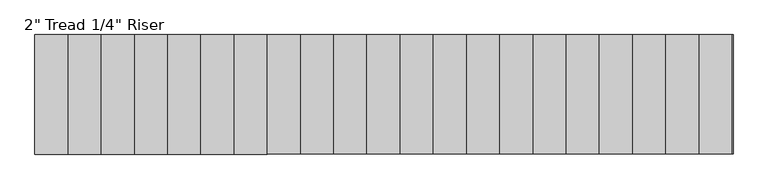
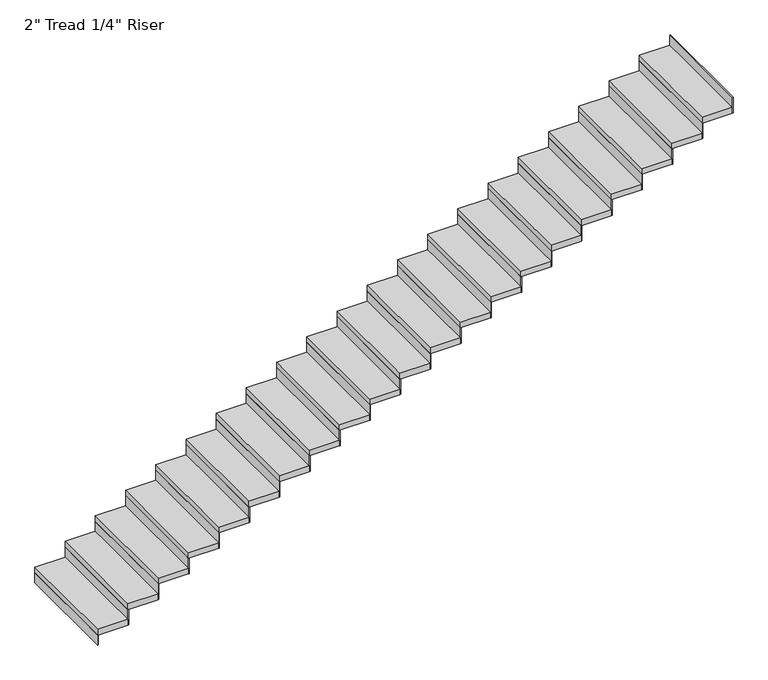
"""IFC4 building model written with IfcOpenShell, lengths in millimetres: stair flight geometry."""

from ifc_helpers import new_model, si_unit, frame, origin, origin_with_axes, place, context, project, spatial, polyline, outline, extrude, source, transform, mapped, element, save


def stair_flight_3eceba13(model_context):
    return source(origin(), model_context, "Body", "SweptSolid", [
        extrude(outline(polyline([(-14491.9069957, -52193.6426165), (-14498.2569957, -52193.6426165), (-14498.2569957, -51279.2426165), (-14491.9069957, -51279.2426165), (-14491.9069957, -52193.6426165)])), origin_with_axes(), (0.0, 0.0, 1.0), 87.7454545),
        extrude(outline(polyline([(-14244.2569957, -51279.2426165), (-14244.2569957, -52193.6426165), (-14498.2569957, -52193.6426165), (-14498.2569957, -51279.2426165), (-14244.2569957, -51279.2426165)])), frame((0.0, 0.0, 87.7454545), z_axis=(0.0, 0.0, 1.0), x_axis=(1.0, 0.0, 0.0)), (0.0, 0.0, 1.0), 50.8),
        extrude(outline(polyline([(-14237.9069957, -52193.6426165), (-14244.2569957, -52193.6426165), (-14244.2569957, -51279.2426165), (-14237.9069957, -51279.2426165), (-14237.9069957, -52193.6426165)])), frame((0.0, 0.0, 87.7454545), z_axis=(0.0, 0.0, 1.0), x_axis=(1.0, 0.0, 0.0)), (0.0, 0.0, 1.0), 138.5454545),
        extrude(outline(polyline([(-13990.2569957, -51279.2426165), (-13990.2569957, -52193.6426165), (-14244.2569957, -52193.6426165), (-14244.2569957, -51279.2426165), (-13990.2569957, -51279.2426165)])), frame((0.0, 0.0, 226.2909091), z_axis=(0.0, 0.0, 1.0), x_axis=(1.0, 0.0, 0.0)), (0.0, 0.0, 1.0), 50.8),
        extrude(outline(polyline([(-13983.9069957, -52193.6426165), (-13990.2569957, -52193.6426165), (-13990.2569957, -51279.2426165), (-13983.9069957, -51279.2426165), (-13983.9069957, -52193.6426165)])), frame((0.0, 0.0, 226.2909091), z_axis=(0.0, 0.0, 1.0), x_axis=(1.0, 0.0, 0.0)), (0.0, 0.0, 1.0), 138.5454545),
        extrude(outline(polyline([(-13736.2569957, -51279.2426165), (-13736.2569957, -52193.6426165), (-13990.2569957, -52193.6426165), (-13990.2569957, -51279.2426165), (-13736.2569957, -51279.2426165)])), frame((0.0, 0.0, 364.8363636), z_axis=(0.0, 0.0, 1.0), x_axis=(1.0, 0.0, 0.0)), (0.0, 0.0, 1.0), 50.8),
        extrude(outline(polyline([(-13729.9069957, -52193.6426165), (-13736.2569957, -52193.6426165), (-13736.2569957, -51279.2426165), (-13729.9069957, -51279.2426165), (-13729.9069957, -52193.6426165)])), frame((0.0, 0.0, 364.8363636), z_axis=(0.0, 0.0, 1.0), x_axis=(1.0, 0.0, 0.0)), (0.0, 0.0, 1.0), 138.5454545),
        extrude(outline(polyline([(-13482.2569957, -51279.2426165), (-13482.2569957, -52193.6426165), (-13736.2569957, -52193.6426165), (-13736.2569957, -51279.2426165), (-13482.2569957, -51279.2426165)])), frame((0.0, 0.0, 503.3818182), z_axis=(0.0, 0.0, 1.0), x_axis=(1.0, 0.0, 0.0)), (0.0, 0.0, 1.0), 50.8),
        extrude(outline(polyline([(-13475.9069957, -52193.6426165), (-13482.2569957, -52193.6426165), (-13482.2569957, -51279.2426165), (-13475.9069957, -51279.2426165), (-13475.9069957, -52193.6426165)])), frame((0.0, 0.0, 503.3818182), z_axis=(0.0, 0.0, 1.0), x_axis=(1.0, 0.0, 0.0)), (0.0, 0.0, 1.0), 138.5454545),
        extrude(outline(polyline([(-13228.2569957, -51279.2426165), (-13228.2569957, -52193.6426165), (-13482.2569957, -52193.6426165), (-13482.2569957, -51279.2426165), (-13228.2569957, -51279.2426165)])), frame((0.0, 0.0, 641.9272727), z_axis=(0.0, 0.0, 1.0), x_axis=(1.0, 0.0, 0.0)), (0.0, 0.0, 1.0), 50.8),
        extrude(outline(polyline([(-13221.9069957, -52193.6426165), (-13228.2569957, -52193.6426165), (-13228.2569957, -51279.2426165), (-13221.9069957, -51279.2426165), (-13221.9069957, -52193.6426165)])), frame((0.0, 0.0, 641.9272727), z_axis=(0.0, 0.0, 1.0), x_axis=(1.0, 0.0, 0.0)), (0.0, 0.0, 1.0), 138.5454545),
        extrude(outline(polyline([(-12974.2569957, -51279.2426165), (-12974.2569957, -52193.6426165), (-13228.2569957, -52193.6426165), (-13228.2569957, -51279.2426165), (-12974.2569957, -51279.2426165)])), frame((0.0, 0.0, 780.4727273), z_axis=(0.0, 0.0, 1.0), x_axis=(1.0, 0.0, 0.0)), (0.0, 0.0, 1.0), 50.8),
        extrude(outline(polyline([(-12967.9069957, -52193.6426165), (-12974.2569957, -52193.6426165), (-12974.2569957, -51279.2426165), (-12967.9069957, -51279.2426165), (-12967.9069957, -52193.6426165)])), frame((0.0, 0.0, 780.4727273), z_axis=(0.0, 0.0, 1.0), x_axis=(1.0, 0.0, 0.0)), (0.0, 0.0, 1.0), 138.5454545),
        extrude(outline(polyline([(-12720.2569957, -51279.2426165), (-12720.2569957, -52193.6426165), (-12974.2569957, -52193.6426165), (-12974.2569957, -51279.2426165), (-12720.2569957, -51279.2426165)])), frame((0.0, 0.0, 919.0181818), z_axis=(0.0, 0.0, 1.0), x_axis=(1.0, 0.0, 0.0)), (0.0, 0.0, 1.0), 50.8),
        extrude(outline(polyline([(-12713.9069957, -52193.6426165), (-12720.2569957, -52193.6426165), (-12720.2569957, -51279.2426165), (-12713.9069957, -51279.2426165), (-12713.9069957, -52193.6426165)])), frame((0.0, 0.0, 919.0181818), z_axis=(0.0, 0.0, 1.0), x_axis=(1.0, 0.0, 0.0)), (0.0, 0.0, 1.0), 138.5454545),
        extrude(outline(polyline([(-12466.2569957, -51279.2426165), (-12466.2569957, -52193.6426165), (-12720.2569957, -52193.6426165), (-12720.2569957, -51279.2426165), (-12466.2569957, -51279.2426165)])), frame((0.0, 0.0, 1057.5636364), z_axis=(0.0, 0.0, 1.0), x_axis=(1.0, 0.0, 0.0)), (0.0, 0.0, 1.0), 50.8),
        extrude(outline(polyline([(-12459.9069957, -52193.6426165), (-12466.2569957, -52193.6426165), (-12466.2569957, -51279.2426165), (-12459.9069957, -51279.2426165), (-12459.9069957, -52193.6426165)])), frame((0.0, 0.0, 1057.5636364), z_axis=(0.0, 0.0, 1.0), x_axis=(1.0, 0.0, 0.0)), (0.0, 0.0, 1.0), 138.5454545),
        extrude(outline(polyline([(-12212.2569957, -51279.2426165), (-12212.2569957, -52193.6426165), (-12466.2569957, -52193.6426165), (-12466.2569957, -51279.2426165), (-12212.2569957, -51279.2426165)])), frame((0.0, 0.0, 1196.1090909), z_axis=(0.0, 0.0, 1.0), x_axis=(1.0, 0.0, 0.0)), (0.0, 0.0, 1.0), 50.8),
        extrude(outline(polyline([(-12205.9069957, -52193.6426165), (-12212.2569957, -52193.6426165), (-12212.2569957, -51279.2426165), (-12205.9069957, -51279.2426165), (-12205.9069957, -52193.6426165)])), frame((0.0, 0.0, 1196.1090909), z_axis=(0.0, 0.0, 1.0), x_axis=(1.0, 0.0, 0.0)), (0.0, 0.0, 1.0), 138.5454545),
        extrude(outline(polyline([(-11958.2569957, -51279.2426165), (-11958.2569957, -52193.6426165), (-12212.2569957, -52193.6426165), (-12212.2569957, -51279.2426165), (-11958.2569957, -51279.2426165)])), frame((0.0, 0.0, 1334.6545455), z_axis=(0.0, 0.0, 1.0), x_axis=(1.0, 0.0, 0.0)), (0.0, 0.0, 1.0), 50.8),
        extrude(outline(polyline([(-11951.9069957, -52193.6426165), (-11958.2569957, -52193.6426165), (-11958.2569957, -51279.2426165), (-11951.9069957, -51279.2426165), (-11951.9069957, -52193.6426165)])), frame((0.0, 0.0, 1334.6545455), z_axis=(0.0, 0.0, 1.0), x_axis=(1.0, 0.0, 0.0)), (0.0, 0.0, 1.0), 138.5454545),
        extrude(outline(polyline([(-11704.2569957, -51279.2426165), (-11704.2569957, -52193.6426165), (-11958.2569957, -52193.6426165), (-11958.2569957, -51279.2426165), (-11704.2569957, -51279.2426165)])), frame((0.0, 0.0, 1473.2), z_axis=(0.0, 0.0, 1.0), x_axis=(1.0, 0.0, 0.0)), (0.0, 0.0, 1.0), 50.8),
        extrude(outline(polyline([(-11697.9069957, -52193.6426165), (-11704.2569957, -52193.6426165), (-11704.2569957, -51279.2426165), (-11697.9069957, -51279.2426165), (-11697.9069957, -52193.6426165)])), frame((0.0, 0.0, 1473.2), z_axis=(0.0, 0.0, 1.0), x_axis=(1.0, 0.0, 0.0)), (0.0, 0.0, 1.0), 138.5454545),
        extrude(outline(polyline([(-11450.2569957, -51279.2426165), (-11450.2569957, -52193.6426165), (-11704.2569957, -52193.6426165), (-11704.2569957, -51279.2426165), (-11450.2569957, -51279.2426165)])), frame((0.0, 0.0, 1611.7454545), z_axis=(0.0, 0.0, 1.0), x_axis=(1.0, 0.0, 0.0)), (0.0, 0.0, 1.0), 50.8),
        extrude(outline(polyline([(-11443.9069957, -52193.6426165), (-11450.2569957, -52193.6426165), (-11450.2569957, -51279.2426165), (-11443.9069957, -51279.2426165), (-11443.9069957, -52193.6426165)])), frame((0.0, 0.0, 1611.7454545), z_axis=(0.0, 0.0, 1.0), x_axis=(1.0, 0.0, 0.0)), (0.0, 0.0, 1.0), 138.5454545),
        extrude(outline(polyline([(-11196.2569957, -51279.2426165), (-11196.2569957, -52193.6426165), (-11450.2569957, -52193.6426165), (-11450.2569957, -51279.2426165), (-11196.2569957, -51279.2426165)])), frame((0.0, 0.0, 1750.2909091), z_axis=(0.0, 0.0, 1.0), x_axis=(1.0, 0.0, 0.0)), (0.0, 0.0, 1.0), 50.8),
        extrude(outline(polyline([(-11189.9069957, -52193.6426165), (-11196.2569957, -52193.6426165), (-11196.2569957, -51279.2426165), (-11189.9069957, -51279.2426165), (-11189.9069957, -52193.6426165)])), frame((0.0, 0.0, 1750.2909091), z_axis=(0.0, 0.0, 1.0), x_axis=(1.0, 0.0, 0.0)), (0.0, 0.0, 1.0), 138.5454545),
        extrude(outline(polyline([(-10942.2569957, -51279.2426165), (-10942.2569957, -52193.6426165), (-11196.2569957, -52193.6426165), (-11196.2569957, -51279.2426165), (-10942.2569957, -51279.2426165)])), frame((0.0, 0.0, 1888.8363636), z_axis=(0.0, 0.0, 1.0), x_axis=(1.0, 0.0, 0.0)), (0.0, 0.0, 1.0), 50.8),
        extrude(outline(polyline([(-10935.9069957, -52193.6426165), (-10942.2569957, -52193.6426165), (-10942.2569957, -51279.2426165), (-10935.9069957, -51279.2426165), (-10935.9069957, -52193.6426165)])), frame((0.0, 0.0, 1888.8363636), z_axis=(0.0, 0.0, 1.0), x_axis=(1.0, 0.0, 0.0)), (0.0, 0.0, 1.0), 138.5454545),
        extrude(outline(polyline([(-10688.2569957, -51279.2426165), (-10688.2569957, -52193.6426165), (-10942.2569957, -52193.6426165), (-10942.2569957, -51279.2426165), (-10688.2569957, -51279.2426165)])), frame((0.0, 0.0, 2027.3818182), z_axis=(0.0, 0.0, 1.0), x_axis=(1.0, 0.0, 0.0)), (0.0, 0.0, 1.0), 50.8),
        extrude(outline(polyline([(-10681.9069957, -52193.6426165), (-10688.2569957, -52193.6426165), (-10688.2569957, -51279.2426165), (-10681.9069957, -51279.2426165), (-10681.9069957, -52193.6426165)])), frame((0.0, 0.0, 2027.3818182), z_axis=(0.0, 0.0, 1.0), x_axis=(1.0, 0.0, 0.0)), (0.0, 0.0, 1.0), 138.5454545),
        extrude(outline(polyline([(-10434.2569957, -51279.2426165), (-10434.2569957, -52193.6426165), (-10688.2569957, -52193.6426165), (-10688.2569957, -51279.2426165), (-10434.2569957, -51279.2426165)])), frame((0.0, 0.0, 2165.9272727), z_axis=(0.0, 0.0, 1.0), x_axis=(1.0, 0.0, 0.0)), (0.0, 0.0, 1.0), 50.8),
        extrude(outline(polyline([(-10427.9069957, -52193.6426165), (-10434.2569957, -52193.6426165), (-10434.2569957, -51279.2426165), (-10427.9069957, -51279.2426165), (-10427.9069957, -52193.6426165)])), frame((0.0, 0.0, 2165.9272727), z_axis=(0.0, 0.0, 1.0), x_axis=(1.0, 0.0, 0.0)), (0.0, 0.0, 1.0), 138.5454545),
        extrude(outline(polyline([(-10180.2569957, -51279.2426165), (-10180.2569957, -52193.6426165), (-10434.2569957, -52193.6426165), (-10434.2569957, -51279.2426165), (-10180.2569957, -51279.2426165)])), frame((0.0, 0.0, 2304.4727273), z_axis=(0.0, 0.0, 1.0), x_axis=(1.0, 0.0, 0.0)), (0.0, 0.0, 1.0), 50.8),
        extrude(outline(polyline([(-10173.9069957, -52193.6426165), (-10180.2569957, -52193.6426165), (-10180.2569957, -51279.2426165), (-10173.9069957, -51279.2426165), (-10173.9069957, -52193.6426165)])), frame((0.0, 0.0, 2304.4727273), z_axis=(0.0, 0.0, 1.0), x_axis=(1.0, 0.0, 0.0)), (0.0, 0.0, 1.0), 138.5454545),
        extrude(outline(polyline([(-9926.2569957, -51279.2426165), (-9926.2569957, -52193.6426165), (-10180.2569957, -52193.6426165), (-10180.2569957, -51279.2426165), (-9926.2569957, -51279.2426165)])), frame((0.0, 0.0, 2443.0181818), z_axis=(0.0, 0.0, 1.0), x_axis=(1.0, 0.0, 0.0)), (0.0, 0.0, 1.0), 50.8),
        extrude(outline(polyline([(-9919.9069957, -52193.6426165), (-9926.2569957, -52193.6426165), (-9926.2569957, -51279.2426165), (-9919.9069957, -51279.2426165), (-9919.9069957, -52193.6426165)])), frame((0.0, 0.0, 2443.0181818), z_axis=(0.0, 0.0, 1.0), x_axis=(1.0, 0.0, 0.0)), (0.0, 0.0, 1.0), 138.5454545),
        extrude(outline(polyline([(-9672.2569957, -51279.2426165), (-9672.2569957, -52193.6426165), (-9926.2569957, -52193.6426165), (-9926.2569957, -51279.2426165), (-9672.2569957, -51279.2426165)])), frame((0.0, 0.0, 2581.5636364), z_axis=(0.0, 0.0, 1.0), x_axis=(1.0, 0.0, 0.0)), (0.0, 0.0, 1.0), 50.8),
        extrude(outline(polyline([(-9665.9069957, -52193.6426165), (-9672.2569957, -52193.6426165), (-9672.2569957, -51279.2426165), (-9665.9069957, -51279.2426165), (-9665.9069957, -52193.6426165)])), frame((0.0, 0.0, 2581.5636364), z_axis=(0.0, 0.0, 1.0), x_axis=(1.0, 0.0, 0.0)), (0.0, 0.0, 1.0), 138.5454545),
        extrude(outline(polyline([(-9418.2569957, -51279.2426165), (-9418.2569957, -52193.6426165), (-9672.2569957, -52193.6426165), (-9672.2569957, -51279.2426165), (-9418.2569957, -51279.2426165)])), frame((0.0, 0.0, 2720.1090909), z_axis=(0.0, 0.0, 1.0), x_axis=(1.0, 0.0, 0.0)), (0.0, 0.0, 1.0), 50.8),
        extrude(outline(polyline([(-9411.9069957, -52193.6426165), (-9418.2569957, -52193.6426165), (-9418.2569957, -51279.2426165), (-9411.9069957, -51279.2426165), (-9411.9069957, -52193.6426165)])), frame((0.0, 0.0, 2720.1090909), z_axis=(0.0, 0.0, 1.0), x_axis=(1.0, 0.0, 0.0)), (0.0, 0.0, 1.0), 138.5454545),
        extrude(outline(polyline([(-9157.9069957, -52193.6426165), (-9164.2569957, -52193.6426165), (-9164.2569957, -51279.2426165), (-9157.9069957, -51279.2426165), (-9157.9069957, -52193.6426165)])), frame((0.0, 0.0, 2858.6545455), z_axis=(0.0, 0.0, 1.0), x_axis=(1.0, 0.0, 0.0)), (0.0, 0.0, 1.0), 138.5454545),
        extrude(outline(polyline([(-9164.2569957, -51279.2426165), (-9164.2569957, -52193.6426165), (-9418.2569957, -52193.6426165), (-9418.2569957, -51279.2426165), (-9164.2569957, -51279.2426165)])), frame((0.0, 0.0, 2858.6545455), z_axis=(0.0, 0.0, 1.0), x_axis=(1.0, 0.0, 0.0)), (0.0, 0.0, 1.0), 50.8),
    ])


if __name__ == "__main__":
    model = new_model("IFC4")
    model_context = context("Model", 3, world=origin())
    ifc_project = project(units=[si_unit("LENGTHUNIT", "METRE", prefix="MILLI")], contexts=[model_context])
    site = spatial("IfcSite", under=ifc_project)
    building = spatial("IfcBuilding", under=site)
    placement = place(None, origin())
    stair_flight_shape = stair_flight_3eceba13(model_context)
    element("IfcStairFlight", 1, ObjectType="2\" Tread 1/4\" Riser", at=placement, inside=building, context=model_context, shape_type="MappedRepresentation", body=[
        mapped(stair_flight_shape, transform((0.0, 0.0, 0.0), x_axis=(1.0, 0.0, 0.0), y_axis=(0.0, 1.0, 0.0), z_axis=(0.0, 0.0, 1.0))),
    ])
    save(model, "model.ifc")
